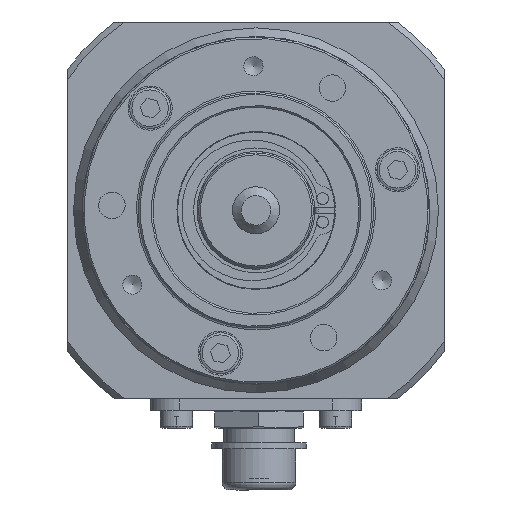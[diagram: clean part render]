
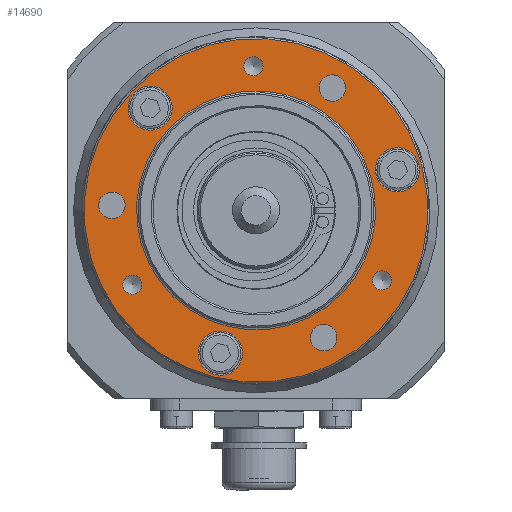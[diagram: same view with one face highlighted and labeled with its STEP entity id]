
A CAD part, left-side view. The second image highlights one B-rep face of the part: STEP entity #14690.
In plain terms, the highlighted planar face has unit normal (-1, 0, 0).
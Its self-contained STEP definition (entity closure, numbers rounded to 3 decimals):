
#3183=PLANE('',#15801);
#3638=FACE_BOUND('',#5006,.T.);
#3639=FACE_BOUND('',#5007,.T.);
#3640=FACE_BOUND('',#5008,.T.);
#3641=FACE_BOUND('',#5009,.T.);
#3642=FACE_BOUND('',#5010,.T.);
#3643=FACE_BOUND('',#5011,.T.);
#3644=FACE_BOUND('',#5012,.T.);
#3645=FACE_BOUND('',#5013,.T.);
#3646=FACE_BOUND('',#5014,.T.);
#3647=FACE_BOUND('',#5015,.T.);
#4002=FACE_OUTER_BOUND('',#5005,.T.);
#5005=EDGE_LOOP('',(#10857));
#5006=EDGE_LOOP('',(#10858));
#5007=EDGE_LOOP('',(#10859));
#5008=EDGE_LOOP('',(#10860));
#5009=EDGE_LOOP('',(#10861));
#5010=EDGE_LOOP('',(#10862));
#5011=EDGE_LOOP('',(#10863));
#5012=EDGE_LOOP('',(#10864));
#5013=EDGE_LOOP('',(#10865));
#5014=EDGE_LOOP('',(#10866));
#5015=EDGE_LOOP('',(#10867));
#5970=CIRCLE('',#15791,2.25);
#5971=CIRCLE('',#15793,2.25);
#5972=CIRCLE('',#15795,2.25);
#5975=CIRCLE('',#15800,20.3);
#5976=CIRCLE('',#15802,29.2);
#5977=CIRCLE('',#15803,1.621);
#5978=CIRCLE('',#15804,1.621);
#5979=CIRCLE('',#15805,1.621);
#5980=CIRCLE('',#15806,3.75);
#5981=CIRCLE('',#15807,3.75);
#5982=CIRCLE('',#15808,3.75);
#6850=VERTEX_POINT('',#22267);
#6851=VERTEX_POINT('',#22270);
#6852=VERTEX_POINT('',#22273);
#6855=VERTEX_POINT('',#22281);
#6856=VERTEX_POINT('',#22284);
#6857=VERTEX_POINT('',#22286);
#6858=VERTEX_POINT('',#22288);
#6859=VERTEX_POINT('',#22290);
#6860=VERTEX_POINT('',#22292);
#6861=VERTEX_POINT('',#22294);
#6862=VERTEX_POINT('',#22296);
#8377=EDGE_CURVE('',#6850,#6850,#5970,.T.);
#8378=EDGE_CURVE('',#6851,#6851,#5971,.T.);
#8379=EDGE_CURVE('',#6852,#6852,#5972,.T.);
#8382=EDGE_CURVE('',#6855,#6855,#5975,.T.);
#8383=EDGE_CURVE('',#6856,#6856,#5976,.T.);
#8384=EDGE_CURVE('',#6857,#6857,#5977,.T.);
#8385=EDGE_CURVE('',#6858,#6858,#5978,.T.);
#8386=EDGE_CURVE('',#6859,#6859,#5979,.T.);
#8387=EDGE_CURVE('',#6860,#6860,#5980,.T.);
#8388=EDGE_CURVE('',#6861,#6861,#5981,.T.);
#8389=EDGE_CURVE('',#6862,#6862,#5982,.T.);
#10857=ORIENTED_EDGE('',*,*,#8383,.F.);
#10858=ORIENTED_EDGE('',*,*,#8377,.T.);
#10859=ORIENTED_EDGE('',*,*,#8378,.T.);
#10860=ORIENTED_EDGE('',*,*,#8379,.T.);
#10861=ORIENTED_EDGE('',*,*,#8384,.T.);
#10862=ORIENTED_EDGE('',*,*,#8385,.T.);
#10863=ORIENTED_EDGE('',*,*,#8386,.T.);
#10864=ORIENTED_EDGE('',*,*,#8387,.T.);
#10865=ORIENTED_EDGE('',*,*,#8388,.T.);
#10866=ORIENTED_EDGE('',*,*,#8389,.T.);
#10867=ORIENTED_EDGE('',*,*,#8382,.F.);
#14690=ADVANCED_FACE('',(#4002,#3638,#3639,#3640,#3641,#3642,#3643,#3644,
#3645,#3646,#3647),#3183,.T.);
#15791=AXIS2_PLACEMENT_3D('',#22268,#17721,#17722);
#15793=AXIS2_PLACEMENT_3D('',#22271,#17725,#17726);
#15795=AXIS2_PLACEMENT_3D('',#22274,#17729,#17730);
#15800=AXIS2_PLACEMENT_3D('',#22282,#17739,#17740);
#15801=AXIS2_PLACEMENT_3D('',#22283,#17741,#17742);
#15802=AXIS2_PLACEMENT_3D('',#22285,#17743,#17744);
#15803=AXIS2_PLACEMENT_3D('',#22287,#17745,#17746);
#15804=AXIS2_PLACEMENT_3D('',#22289,#17747,#17748);
#15805=AXIS2_PLACEMENT_3D('',#22291,#17749,#17750);
#15806=AXIS2_PLACEMENT_3D('',#22293,#17751,#17752);
#15807=AXIS2_PLACEMENT_3D('',#22295,#17753,#17754);
#15808=AXIS2_PLACEMENT_3D('',#22297,#17755,#17756);
#17721=DIRECTION('center_axis',(1.,0.,0.));
#17722=DIRECTION('ref_axis',(0.,0.276,0.961));
#17725=DIRECTION('center_axis',(1.,0.,0.));
#17726=DIRECTION('ref_axis',(0.,0.276,0.961));
#17729=DIRECTION('center_axis',(1.,0.,0.));
#17730=DIRECTION('ref_axis',(0.,0.276,0.961));
#17739=DIRECTION('center_axis',(-1.,0.,0.));
#17740=DIRECTION('ref_axis',(0.,-0.961,0.276));
#17741=DIRECTION('center_axis',(-1.,0.,0.));
#17742=DIRECTION('ref_axis',(0.,0.276,0.961));
#17743=DIRECTION('center_axis',(1.,0.,0.));
#17744=DIRECTION('ref_axis',(0.,-0.961,0.276));
#17745=DIRECTION('center_axis',(1.,0.,0.));
#17746=DIRECTION('ref_axis',(0.,0.276,0.961));
#17747=DIRECTION('center_axis',(1.,0.,0.));
#17748=DIRECTION('ref_axis',(0.,0.276,0.961));
#17749=DIRECTION('center_axis',(1.,0.,0.));
#17750=DIRECTION('ref_axis',(0.,0.276,0.961));
#17751=DIRECTION('center_axis',(1.,0.,0.));
#17752=DIRECTION('ref_axis',(0.,0.276,0.961));
#17753=DIRECTION('center_axis',(1.,0.,0.));
#17754=DIRECTION('ref_axis',(0.,0.276,0.961));
#17755=DIRECTION('center_axis',(1.,0.,0.));
#17756=DIRECTION('ref_axis',(0.,0.276,0.961));
#22267=CARTESIAN_POINT('',(3.,-12.122,-23.795));
#22268=CARTESIAN_POINT('Origin',(3.,-11.502,-21.632));
#22270=CARTESIAN_POINT('',(3.,-13.603,18.614));
#22271=CARTESIAN_POINT('Origin',(3.,-12.983,20.777));
#22273=CARTESIAN_POINT('',(3.,23.865,-1.308));
#22274=CARTESIAN_POINT('Origin',(3.,24.485,0.855));
#22281=CARTESIAN_POINT('',(3.,19.514,-5.595));
#22282=CARTESIAN_POINT('Origin',(3.,0.,
0.));
#22283=CARTESIAN_POINT('Origin',(3.,23.791,-6.822));
#22284=CARTESIAN_POINT('',(3.,28.069,-8.049));
#22285=CARTESIAN_POINT('Origin',(3.,0.,
0.));
#22286=CARTESIAN_POINT('',(3.,-0.019,22.938));
#22287=CARTESIAN_POINT('Origin',(3.,0.428,24.496));
#22288=CARTESIAN_POINT('',(3.,20.554,-14.177));
#22289=CARTESIAN_POINT('Origin',(3.,21.001,-12.618));
#22290=CARTESIAN_POINT('',(3.,-21.875,-13.436));
#22291=CARTESIAN_POINT('Origin',(3.,-21.428,-11.878));
#22292=CARTESIAN_POINT('',(3.,16.95,13.762));
#22293=CARTESIAN_POINT('Origin',(3.,17.983,17.366));
#22294=CARTESIAN_POINT('',(3.,5.014,-27.862));
#22295=CARTESIAN_POINT('Origin',(3.,6.048,-24.257));
#22296=CARTESIAN_POINT('',(3.,-25.065,3.286));
#22297=CARTESIAN_POINT('Origin',(3.,-24.032,6.891));
